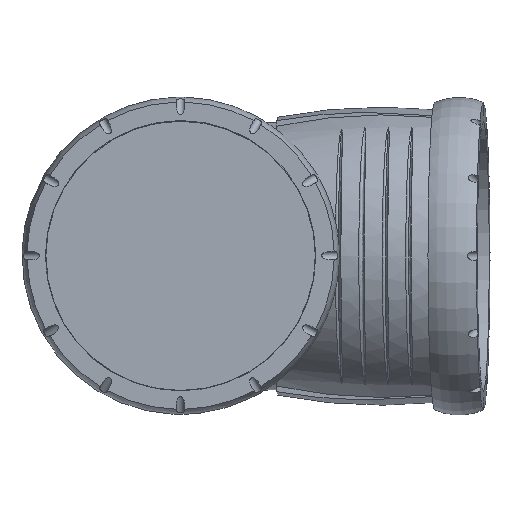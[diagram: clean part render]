
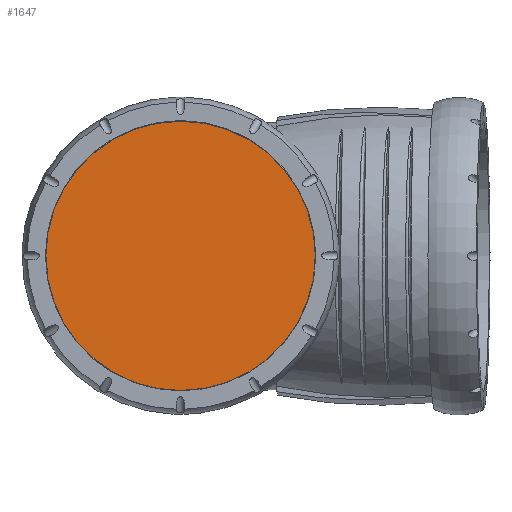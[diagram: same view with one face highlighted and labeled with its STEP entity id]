
A CAD part, top view. The second image highlights one B-rep face of the part: STEP entity #1647.
In plain terms, the highlighted planar face has unit normal (0, 0, 1).
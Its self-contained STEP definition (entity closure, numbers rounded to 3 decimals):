
#223=PLANE('',#1788);
#303=FACE_OUTER_BOUND('',#413,.T.);
#413=EDGE_LOOP('',(#1067));
#553=CIRCLE('',#1789,63.);
#632=VERTEX_POINT('',#2374);
#810=EDGE_CURVE('',#632,#632,#553,.T.);
#1067=ORIENTED_EDGE('',*,*,#810,.T.);
#1647=ADVANCED_FACE('',(#303),#223,.T.);
#1788=AXIS2_PLACEMENT_3D('',#2373,#2005,#2006);
#1789=AXIS2_PLACEMENT_3D('',#2375,#2007,#2008);
#2005=DIRECTION('center_axis',(0.,0.,
1.));
#2006=DIRECTION('ref_axis',(0.,1.,0.));
#2007=DIRECTION('center_axis',(0.,0.,
1.));
#2008=DIRECTION('ref_axis',(0.,1.,0.));
#2373=CARTESIAN_POINT('Origin',(0.,0.,
212.71));
#2374=CARTESIAN_POINT('',(-63.,0.,212.71));
#2375=CARTESIAN_POINT('Origin',(0.,0.,
212.71));
